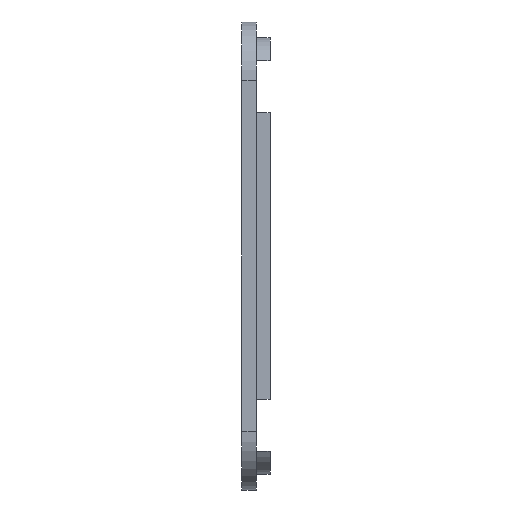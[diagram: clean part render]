
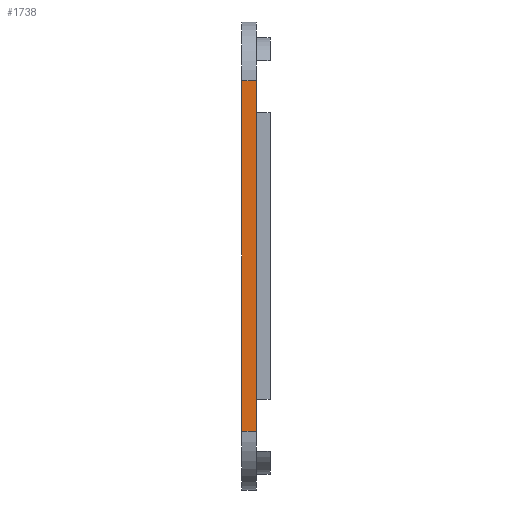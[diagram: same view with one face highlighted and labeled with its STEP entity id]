
A CAD part, left-side view. The second image highlights one B-rep face of the part: STEP entity #1738.
In plain terms, the highlighted planar face has unit normal (-1, 0, 0).
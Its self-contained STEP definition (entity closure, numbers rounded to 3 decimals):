
#44 = PLANE('',#45);
#45 = AXIS2_PLACEMENT_3D('',#46,#47,#48);
#46 = CARTESIAN_POINT('',(0.,25.5,44.));
#47 = DIRECTION('',(0.,1.,0.));
#48 = DIRECTION('',(0.,-0.,1.));
#72 = CYLINDRICAL_SURFACE('',#73,9.7);
#73 = AXIS2_PLACEMENT_3D('',#74,#75,#76);
#74 = CARTESIAN_POINT('',(-55.,25.5,73.));
#75 = DIRECTION('',(0.,1.,0.));
#76 = DIRECTION('',(0.,-0.,1.));
#100 = PLANE('',#101);
#101 = AXIS2_PLACEMENT_3D('',#102,#103,#104);
#102 = CARTESIAN_POINT('',(0.,27.9,44.));
#103 = DIRECTION('',(0.,1.,0.));
#104 = DIRECTION('',(0.,-0.,1.));
#142 = VERTEX_POINT('',#143);
#143 = CARTESIAN_POINT('',(-64.7,25.5,73.));
#288 = VERTEX_POINT('',#289);
#289 = CARTESIAN_POINT('',(-64.7,25.5,15.));
#308 = CYLINDRICAL_SURFACE('',#309,9.7);
#309 = AXIS2_PLACEMENT_3D('',#310,#311,#312);
#310 = CARTESIAN_POINT('',(-55.,25.5,15.));
#311 = DIRECTION('',(0.,1.,0.));
#312 = DIRECTION('',(0.,0.,-1.));
#320 = EDGE_CURVE('',#142,#288,#321,.T.);
#321 = SURFACE_CURVE('',#322,(#326,#333),.PCURVE_S1.);
#322 = LINE('',#323,#324);
#323 = CARTESIAN_POINT('',(-64.7,25.5,73.));
#324 = VECTOR('',#325,1.);
#325 = DIRECTION('',(0.,0.,-1.));
#326 = PCURVE('',#44,#327);
#327 = DEFINITIONAL_REPRESENTATION('',(#328),#332);
#328 = LINE('',#329,#330);
#329 = CARTESIAN_POINT('',(29.,-64.7));
#330 = VECTOR('',#331,1.);
#331 = DIRECTION('',(-1.,0.));
#332 = ( GEOMETRIC_REPRESENTATION_CONTEXT(2) 
PARAMETRIC_REPRESENTATION_CONTEXT() REPRESENTATION_CONTEXT('2D SPACE',''
  ) );
#333 = PCURVE('',#334,#339);
#334 = PLANE('',#335);
#335 = AXIS2_PLACEMENT_3D('',#336,#337,#338);
#336 = CARTESIAN_POINT('',(-64.7,25.5,5.3));
#337 = DIRECTION('',(1.,0.,0.));
#338 = DIRECTION('',(0.,0.,1.));
#339 = DEFINITIONAL_REPRESENTATION('',(#340),#344);
#340 = LINE('',#341,#342);
#341 = CARTESIAN_POINT('',(67.7,0.));
#342 = VECTOR('',#343,1.);
#343 = DIRECTION('',(-1.,0.));
#344 = ( GEOMETRIC_REPRESENTATION_CONTEXT(2) 
PARAMETRIC_REPRESENTATION_CONTEXT() REPRESENTATION_CONTEXT('2D SPACE',''
  ) );
#1395 = VERTEX_POINT('',#1396);
#1396 = CARTESIAN_POINT('',(-64.7,27.9,73.));
#1422 = EDGE_CURVE('',#142,#1395,#1423,.T.);
#1423 = SURFACE_CURVE('',#1424,(#1428,#1435),.PCURVE_S1.);
#1424 = LINE('',#1425,#1426);
#1425 = CARTESIAN_POINT('',(-64.7,25.5,73.));
#1426 = VECTOR('',#1427,1.);
#1427 = DIRECTION('',(0.,1.,0.));
#1428 = PCURVE('',#72,#1429);
#1429 = DEFINITIONAL_REPRESENTATION('',(#1430),#1434);
#1430 = LINE('',#1431,#1432);
#1431 = CARTESIAN_POINT('',(4.712,0.));
#1432 = VECTOR('',#1433,1.);
#1433 = DIRECTION('',(-0.,1.));
#1434 = ( GEOMETRIC_REPRESENTATION_CONTEXT(2) 
PARAMETRIC_REPRESENTATION_CONTEXT() REPRESENTATION_CONTEXT('2D SPACE',''
  ) );
#1435 = PCURVE('',#334,#1436);
#1436 = DEFINITIONAL_REPRESENTATION('',(#1437),#1441);
#1437 = LINE('',#1438,#1439);
#1438 = CARTESIAN_POINT('',(67.7,0.));
#1439 = VECTOR('',#1440,1.);
#1440 = DIRECTION('',(0.,-1.));
#1441 = ( GEOMETRIC_REPRESENTATION_CONTEXT(2) 
PARAMETRIC_REPRESENTATION_CONTEXT() REPRESENTATION_CONTEXT('2D SPACE',''
  ) );
#1543 = VERTEX_POINT('',#1544);
#1544 = CARTESIAN_POINT('',(-64.7,27.9,15.));
#1566 = EDGE_CURVE('',#1543,#1395,#1567,.T.);
#1567 = SURFACE_CURVE('',#1568,(#1572,#1579),.PCURVE_S1.);
#1568 = LINE('',#1569,#1570);
#1569 = CARTESIAN_POINT('',(-64.7,27.9,5.3));
#1570 = VECTOR('',#1571,1.);
#1571 = DIRECTION('',(0.,0.,1.));
#1572 = PCURVE('',#100,#1573);
#1573 = DEFINITIONAL_REPRESENTATION('',(#1574),#1578);
#1574 = LINE('',#1575,#1576);
#1575 = CARTESIAN_POINT('',(-38.7,-64.7));
#1576 = VECTOR('',#1577,1.);
#1577 = DIRECTION('',(1.,0.));
#1578 = ( GEOMETRIC_REPRESENTATION_CONTEXT(2) 
PARAMETRIC_REPRESENTATION_CONTEXT() REPRESENTATION_CONTEXT('2D SPACE',''
  ) );
#1579 = PCURVE('',#334,#1580);
#1580 = DEFINITIONAL_REPRESENTATION('',(#1581),#1585);
#1581 = LINE('',#1582,#1583);
#1582 = CARTESIAN_POINT('',(0.,-2.4));
#1583 = VECTOR('',#1584,1.);
#1584 = DIRECTION('',(1.,0.));
#1585 = ( GEOMETRIC_REPRESENTATION_CONTEXT(2) 
PARAMETRIC_REPRESENTATION_CONTEXT() REPRESENTATION_CONTEXT('2D SPACE',''
  ) );
#1738 = ADVANCED_FACE('',(#1739),#334,.F.);
#1739 = FACE_BOUND('',#1740,.F.);
#1740 = EDGE_LOOP('',(#1741,#1742,#1763,#1764));
#1741 = ORIENTED_EDGE('',*,*,#320,.T.);
#1742 = ORIENTED_EDGE('',*,*,#1743,.T.);
#1743 = EDGE_CURVE('',#288,#1543,#1744,.T.);
#1744 = SURFACE_CURVE('',#1745,(#1749,#1756),.PCURVE_S1.);
#1745 = LINE('',#1746,#1747);
#1746 = CARTESIAN_POINT('',(-64.7,25.5,15.));
#1747 = VECTOR('',#1748,1.);
#1748 = DIRECTION('',(0.,1.,0.));
#1749 = PCURVE('',#334,#1750);
#1750 = DEFINITIONAL_REPRESENTATION('',(#1751),#1755);
#1751 = LINE('',#1752,#1753);
#1752 = CARTESIAN_POINT('',(9.7,0.));
#1753 = VECTOR('',#1754,1.);
#1754 = DIRECTION('',(0.,-1.));
#1755 = ( GEOMETRIC_REPRESENTATION_CONTEXT(2) 
PARAMETRIC_REPRESENTATION_CONTEXT() REPRESENTATION_CONTEXT('2D SPACE',''
  ) );
#1756 = PCURVE('',#308,#1757);
#1757 = DEFINITIONAL_REPRESENTATION('',(#1758),#1762);
#1758 = LINE('',#1759,#1760);
#1759 = CARTESIAN_POINT('',(1.571,0.));
#1760 = VECTOR('',#1761,1.);
#1761 = DIRECTION('',(0.,1.));
#1762 = ( GEOMETRIC_REPRESENTATION_CONTEXT(2) 
PARAMETRIC_REPRESENTATION_CONTEXT() REPRESENTATION_CONTEXT('2D SPACE',''
  ) );
#1763 = ORIENTED_EDGE('',*,*,#1566,.T.);
#1764 = ORIENTED_EDGE('',*,*,#1422,.F.);
